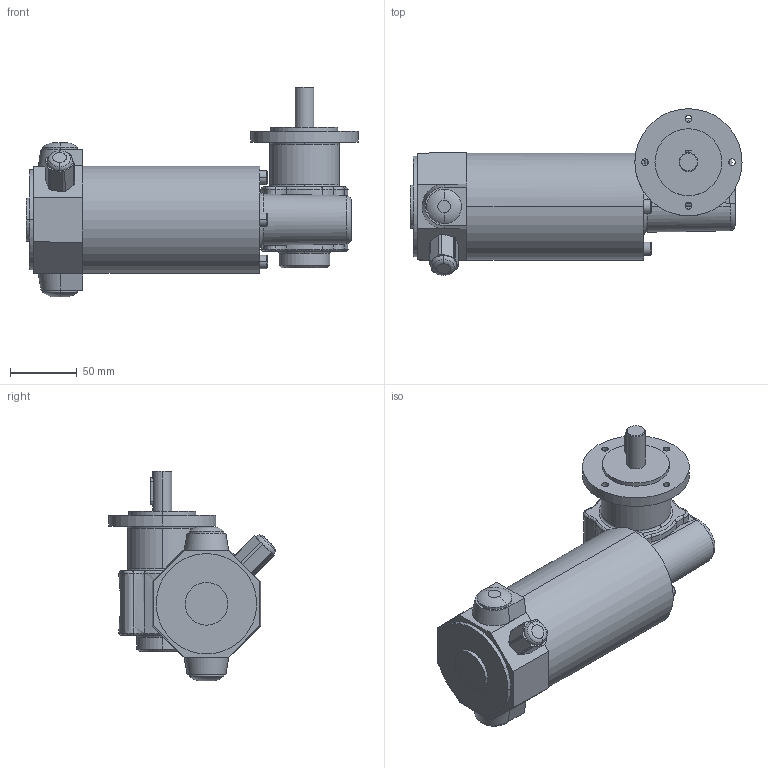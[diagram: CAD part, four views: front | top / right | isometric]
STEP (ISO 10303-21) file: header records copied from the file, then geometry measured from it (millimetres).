
FILE_DESCRIPTION(('OneSpaceDesigner STEP Export'),'2;1');
FILE_NAME('EPG13_GF133-10.stp','2008-07-10T 8:27:40',(''),(''),'OneSpace Designer STEP processor (Jan. 2003) for AP214(CD)(Solid Model)','OneSpace Designer 12.01D 09-Jul-2004 (C) CoCreate Software GmbH','');
FILE_SCHEMA(('AUTOMOTIVE_DESIGN_CC2 {1 2 10303 214 -1 1 5 1}'));
Length unit declared in the file: millimetre
Products named in the file (2): EPG13_GF133-10
Assembly tree (1 placements, depth 2):
  EPG13_GF133-10
    EPG13_GF133-10
Bounding box: 248 x 124.4 x 156.5 mm (x, y, z)
Volume: 1273056.6 mm3; surface area: 93970.7 mm2
Topology: 1 solids, 1 shells, 192 faces, 484 edges, 310 vertices
Faces by surface type: plane 52, cylinder 50, bspline 41, extrusion 25, torus 14, cone 10
Entity records: 16624 total; most frequent: CARTESIAN_POINT 12755, ORIENTED_EDGE 968, DIRECTION 510, EDGE_CURVE 484, VERTEX_POINT 310, EDGE_LOOP 216, FACE_OUTER_BOUND 192, ADVANCED_FACE 192
